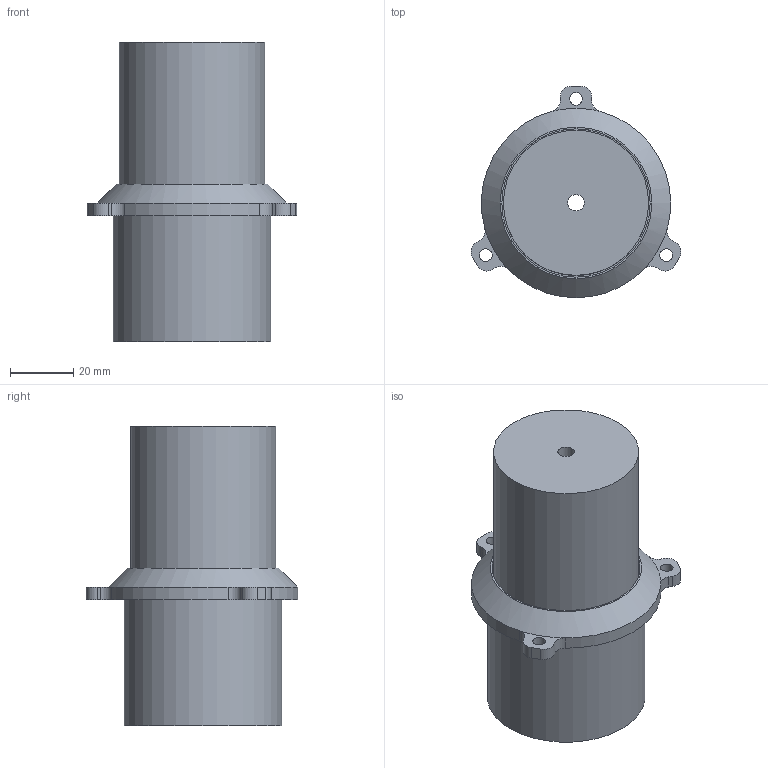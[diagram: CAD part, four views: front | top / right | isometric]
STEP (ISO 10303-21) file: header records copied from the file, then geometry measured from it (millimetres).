
FILE_DESCRIPTION(('FreeCAD Model'),'2;1');
FILE_NAME('Open CASCADE Shape Model','2025-12-15T15:38:31',(''),(''), 'Open CASCADE STEP processor 7.8','FreeCAD','Unknown');
FILE_SCHEMA(('AUTOMOTIVE_DESIGN { 1 0 10303 214 1 1 1 1 }'));
Length unit declared in the file: millimetre
Products named in the file (4): cones_V2; Cut002; Cut004; Fillet
Assembly tree (3 placements, depth 2):
  cones_V2
    Cut002
    Cut004
    Fillet
Bounding box: 66.52 x 67 x 95 mm (x, y, z)
Volume: 59535.9 mm3; surface area: 39271.3 mm2
Topology: 3 solids, 3 shells, 52 faces, 124 edges, 83 vertices
Faces by surface type: cylinder 28, plane 23, cone 1
Full cylindrical faces by diameter (mm): 4 x3, 5.2 x1, 36 x1, 40 x2, 44 x3, 46 x1, 47 x1, 50 x1
Entity records: 3339 total; most frequent: CARTESIAN_POINT 651, DIRECTION 527, ORIENTED_EDGE 248, PCURVE 248, DEFINITIONAL_REPRESENTATION 248, LINE 238, VECTOR 238, AXIS2_PLACEMENT_3D 124
